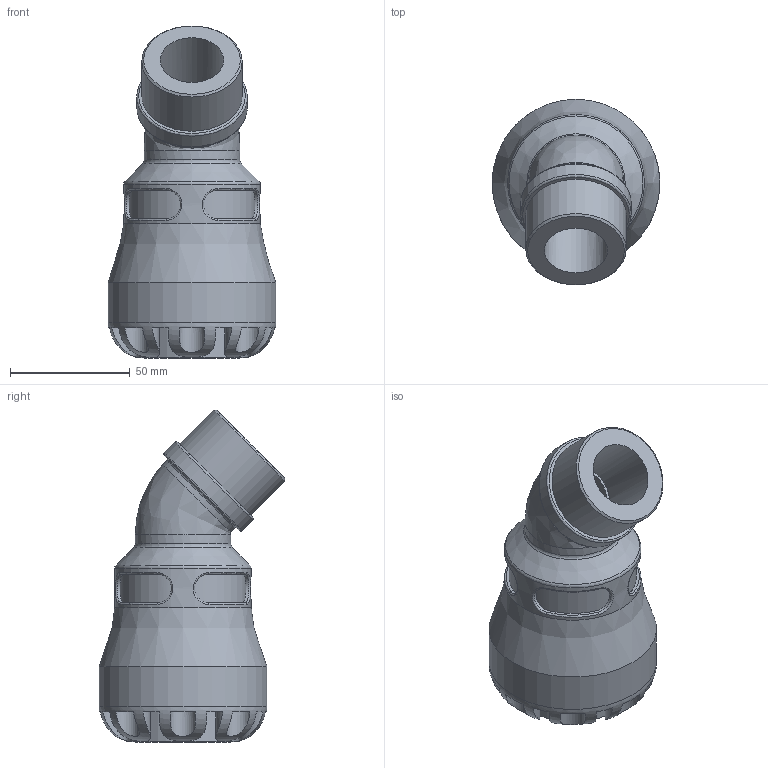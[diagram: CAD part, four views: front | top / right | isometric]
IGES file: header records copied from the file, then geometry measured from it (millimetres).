
Global section: file name: 104500040013.ipt; native system: Autodesk Inventor 2015; preprocessor: unknown; author: KIM; date: 20190127.091404; units: millimetre
Bounding box: 70 x 77.54 x 138.54 mm (x, y, z)
Volume: 181833.9 mm3; surface area: 46518.6 mm2
Topology: 1 solids, 1 shells, 116 faces, 281 edges, 176 vertices
Faces by surface type: revolution 38, cylinder 34, plane 30, bspline 12, cone 2
Full cylindrical faces by diameter (mm): 39.815 x2, 41.91 x1, 46.101 x1, 57.057 x1, 70 x1
